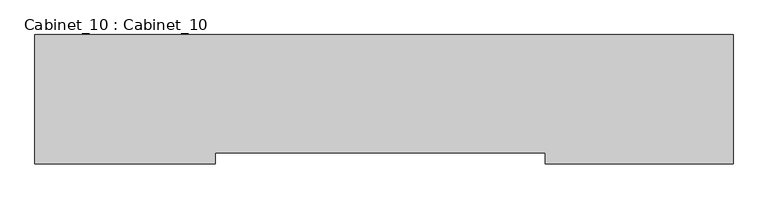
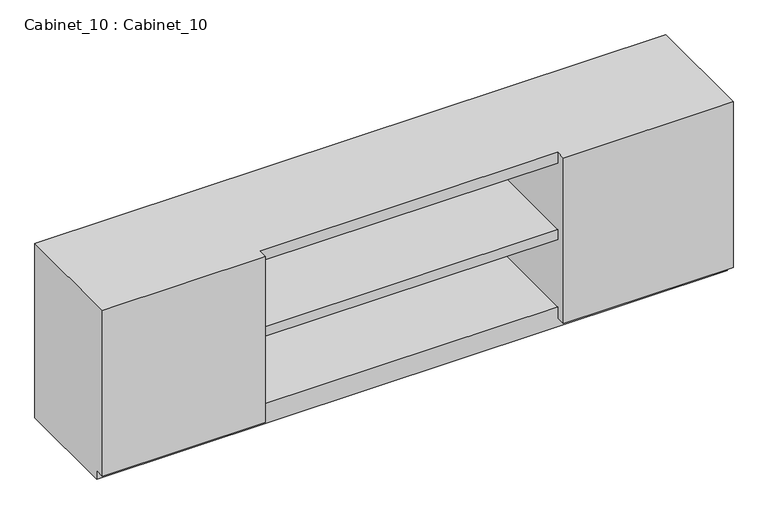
"""IFC4 building model written with IfcOpenShell, lengths in millimetres: furniture geometry, Cabinet_10 : Cabinet_10."""

from ifc_helpers import new_model, si_unit, origin, place, context, project, spatial, faceted_brep, source, transform, mapped, element, save


def cabinet_10_cabinet_10_716603c4(model_context):
    return source(origin(), model_context, "Body", "Brep", [
        faceted_brep([(-1589.2592938, 17206.9318757, 4107.7453439), (830.7407062, 17206.9318757, 4107.7453439), (830.7407062, 17206.9318757, 3400.0), (-1589.2592938, 17206.9318757, 3400.0), (-1589.2592938, 16758.8372577, 4107.7453439), (-964.2628937, 16758.8372577, 4107.7453439), (-964.2628937, 16796.9318757, 4107.7453439), (180.0663595, 16796.9318757, 4107.7453439), (180.0663595, 16758.8372577, 4107.7453439), (830.7407062, 16758.8372577, 4107.7453439), (830.7407062, 16796.9318757, 3400.0), (-1589.2592938, 16796.9318757, 3400.0), (-1589.2592938, 16758.8372577, 3435.4136305), (-964.2628937, 16758.8372577, 3435.4136305), (830.7407062, 16758.8372577, 3435.4136305), (180.0663595, 16758.8372577, 3435.4136305), (830.7407062, 16796.9318757, 3435.4136305), (-1589.2592938, 16796.9318757, 3435.4136305), (-964.2628937, 16796.9318757, 3435.4136305), (180.0663595, 16796.9318757, 3435.4136305), (-964.2628937, 16796.9318757, 4064.1278703), (180.0663595, 16796.9318757, 4064.1278703), (180.0663595, 16796.9318757, 3479.719202), (-964.2628937, 16796.9318757, 3479.719202), (-964.2628937, 16796.9318757, 3753.7146216), (180.0663595, 16796.9318757, 3753.7146216), (180.0663595, 16796.9318757, 3793.6420667), (-964.2628937, 16796.9318757, 3793.6420667), (-964.2628937, 17191.9318757, 3479.719202), (-964.2628937, 17191.9318757, 3753.7146216), (-964.2628937, 17191.9318757, 3793.6420667), (-964.2628937, 17191.9318757, 4064.1278703), (180.0663595, 17191.9318757, 4064.1278703), (180.0663595, 17191.9318757, 3793.6420667), (180.0663595, 17191.9318757, 3753.7146216), (180.0663595, 17191.9318757, 3479.719202)], [[[0, 1, 2, 3]], [[1, 0, 4, 5, 6, 7, 8, 9]], [[3, 2, 10, 11]], [[4, 12, 13, 5]], [[14, 9, 8, 15]], [[2, 1, 9, 14, 16, 10]], [[0, 3, 11, 17, 12, 4]], [[12, 17, 18, 13]], [[16, 14, 15, 19]], [[7, 6, 20, 21]], [[17, 11, 10, 16, 19, 22, 23, 18]], [[24, 25, 26, 27]], [[6, 5, 13, 18, 23, 28, 29, 24, 27, 30, 31, 20]], [[8, 7, 21, 32, 33, 26, 25, 34, 35, 22, 19, 15]], [[29, 34, 25, 24]], [[35, 28, 23, 22]], [[34, 29, 28, 35]], [[31, 32, 21, 20]], [[33, 30, 27, 26]], [[32, 31, 30, 33]]]),
    ])


if __name__ == "__main__":
    model = new_model("IFC4")
    model_context = context("Model", 3, world=origin())
    ifc_project = project(units=[si_unit("LENGTHUNIT", "METRE", prefix="MILLI")], contexts=[model_context])
    site = spatial("IfcSite", under=ifc_project)
    building = spatial("IfcBuilding", under=site)
    placement = place(None, origin())
    cabinet_10_cabinet_10_shape = cabinet_10_cabinet_10_716603c4(model_context)
    element("IfcFurniture", 1, ObjectType="Cabinet_10 : Cabinet_10", at=placement, inside=building, context=model_context, shape_type="MappedRepresentation", body=[
        mapped(cabinet_10_cabinet_10_shape, transform((0.0, 0.0, 0.0), x_axis=(1.0, 0.0, 0.0), y_axis=(0.0, 1.0, 0.0), z_axis=(0.0, 0.0, 1.0))),
    ])
    save(model, "model.ifc")
